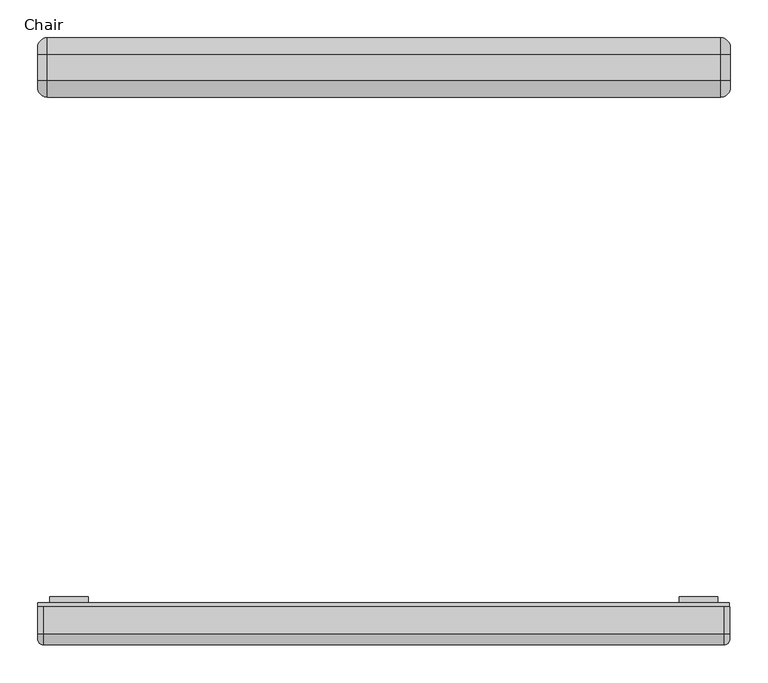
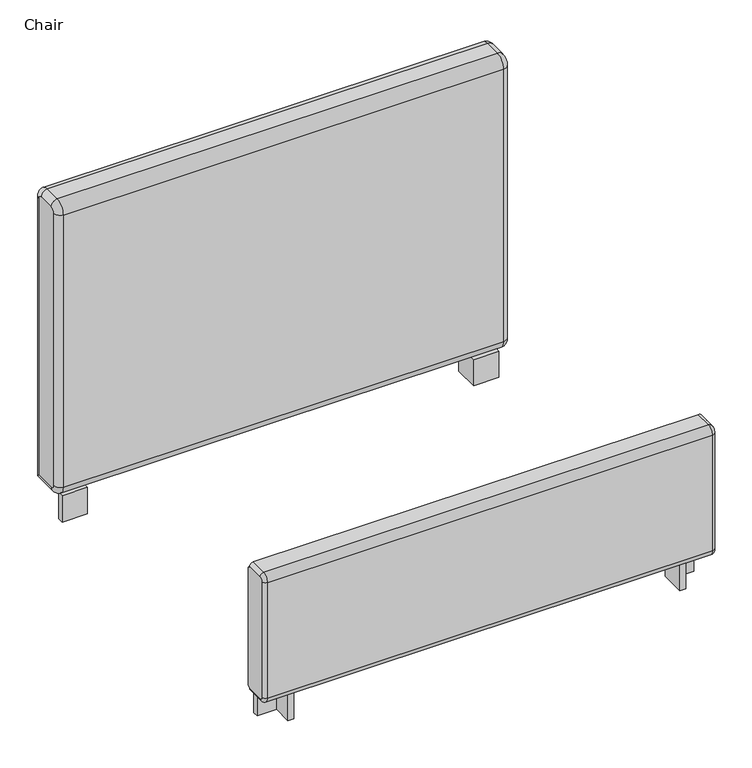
"""IFC4 building model written with IfcOpenShell, lengths in millimetres: furniture geometry, Steelcase Coalesse - Evaneau - Seating - Chair : Chair."""

from ifc_helpers import new_model, si_unit, point, frame, origin, origin_with_axes, place, context, project, spatial, polyline, circle_curve, ellipse_curve, trimmed, outline, extrude, source, transform, mapped, element, save
from ifc_brep_helpers import plane_surface, cylinder_surface, revolved_surface, advanced_brep


def chair_06b946c4(model_context):
    return source(origin(), model_context, "Body", "SolidModel", [
        advanced_brep(
        [(-1122.2082605, 271.7932961, 324.5099722), (-1122.2082605, 276.8732961, 319.4299722), (-1122.2082605, 276.8732961, 71.8912426), (-1122.2082605, 271.7932961, 66.8112426), (-1122.2082605, 271.7932961, 65.6357853), (-1122.2082605, 235.3471838, 65.6357853), (-1122.2082605, 229.0917265, 71.8912426), (-1122.2082605, 229.0917265, 319.4299722), (-1122.2082605, 235.3471838, 325.6854295), (-1122.2082605, 271.7932961, 325.6854295), (-206.5501978, 271.7932961, 66.8112426), (-206.5501978, 276.8732961, 71.8912426), (-206.5501978, 276.8732961, 319.4299722), (-206.5501978, 271.7932961, 324.5099722), (-206.5501978, 235.3471838, 324.5099722), (-206.5501978, 230.2671838, 319.4299722), (-206.5501978, 230.2671838, 71.8912426), (-206.5501978, 235.3471838, 66.8112426), (-205.6275834, 271.7932961, 66.8112426), (-205.6275834, 271.7932961, 65.6035308), (-213.2475834, 271.7932961, 57.9835308), (-1114.556006, 271.7932961, 57.9835308), (-205.6275834, 235.3471838, 66.8112426), (-205.6275834, 230.2671838, 71.8912426), (-205.6275834, 230.2671838, 319.4299722), (-205.6275834, 235.3471838, 324.5099722), (-205.6275834, 271.7932961, 324.5099722), (-205.6275834, 271.7932961, 325.717684), (-205.6275834, 235.3471838, 325.717684), (-205.6275834, 229.059472, 319.4299722), (-205.6275834, 229.059472, 71.8912426), (-205.6275834, 235.3471838, 65.6035308), (-213.2475834, 235.3471838, 57.9835308), (-1114.556006, 235.3471838, 57.9835308), (-213.2475834, 221.439472, 71.8912426), (-1114.556006, 221.439472, 71.8912426), (-213.2475834, 221.439472, 319.4299722), (-1114.556006, 221.439472, 319.4299722), (-213.2475834, 235.3471838, 333.337684), (-1114.556006, 235.3471838, 333.337684), (-1114.556006, 271.7932961, 333.337684), (-213.2475834, 271.7932961, 333.337684)],
        [
            (0, 1, circle_curve(frame((-1122.2082605, 271.7932961, 319.4299722), z_axis=(-1.0, 0.0, 0.0), x_axis=(0.0, -1.0, 0.0)), 5.08)),
            (1, 2),
            (2, 3, circle_curve(frame((-1122.2082605, 271.7932961, 71.8912426), z_axis=(-1.0, 0.0, 0.0), x_axis=(0.0, -1.0, 0.0)), 5.08)),
            (3, 4),
            (4, 5),
            (5, 6, circle_curve(frame((-1122.2082605, 235.3471838, 71.8912426), z_axis=(-1.0, 0.0, 0.0), x_axis=(0.0, 0.0, -1.0)), 6.2554573)),
            (6, 7),
            (7, 8, circle_curve(frame((-1122.2082605, 235.3471838, 319.4299722), z_axis=(-1.0, 0.0, 0.0), x_axis=(0.0, -1.0, 0.0)), 6.2554573)),
            (8, 9),
            (9, 0),
            (10, 11, circle_curve(frame((-206.5501978, 271.7932961, 71.8912426), z_axis=(1.0, 0.0, 0.0), x_axis=(0.0, -1.0, 0.0)), 5.08)),
            (11, 12),
            (12, 13, circle_curve(frame((-206.5501978, 271.7932961, 319.4299722), z_axis=(1.0, 0.0, 0.0), x_axis=(0.0, -1.0, 0.0)), 5.08)),
            (13, 14),
            (14, 15, circle_curve(frame((-206.5501978, 235.3471838, 319.4299722), z_axis=(1.0, 0.0, 0.0), x_axis=(0.0, -1.0, 0.0)), 5.08)),
            (15, 16),
            (16, 17, circle_curve(frame((-206.5501978, 235.3471838, 71.8912426), z_axis=(1.0, 0.0, 0.0), x_axis=(0.0, 0.0, -1.0)), 5.08)),
            (17, 10),
            (0, 13),
            (12, 1),
            (11, 2),
            (10, 3),
            (18, 19),
            (19, 20, circle_curve(frame((-213.2475834, 271.7932961, 65.6035308), z_axis=(0.0, 1.0, 0.0), x_axis=(1.0, 0.0, 0.0)), 7.62)),
            (20, 21),
            (21, 4, circle_curve(frame((-1114.556006, 271.7932961, 65.6357853), z_axis=(0.0, 1.0, 0.0), x_axis=(1.0, 0.0, 0.0)), 7.6522545)),
            (10, 18),
            (18, 22),
            (22, 23, circle_curve(frame((-205.6275834, 235.3471838, 71.8912426), z_axis=(-1.0, 0.0, 0.0), x_axis=(0.0, 0.0, -1.0)), 5.08)),
            (23, 24),
            (24, 25, circle_curve(frame((-205.6275834, 235.3471838, 319.4299722), z_axis=(-1.0, 0.0, 0.0), x_axis=(0.0, -1.0, 0.0)), 5.08)),
            (25, 26),
            (26, 27),
            (27, 28),
            (28, 29, circle_curve(frame((-205.6275834, 235.3471838, 319.4299722), z_axis=(1.0, 0.0, 0.0), x_axis=(0.0, -1.0, 0.0)), 6.2877117)),
            (29, 30),
            (30, 31, circle_curve(frame((-205.6275834, 235.3471838, 71.8912426), z_axis=(1.0, 0.0, 0.0), x_axis=(0.0, 0.0, -1.0)), 6.2877117)),
            (31, 19),
            (31, 32, circle_curve(frame((-213.2475834, 235.3471838, 65.6035308), z_axis=(0.0, 1.0, 0.0), x_axis=(1.0, 0.0, 0.0)), 7.62)),
            (32, 20),
            (32, 33),
            (33, 21),
            (33, 5, circle_curve(frame((-1114.556006, 235.3471838, 65.6357853), z_axis=(0.0, 1.0, 0.0), x_axis=(1.0, 0.0, 0.0)), 7.6522545)),
            (17, 22),
            (30, 34, circle_curve(frame((-213.2475834, 229.059472, 71.8912426), z_axis=(0.0, 0.0, -1.0), x_axis=(1.0, 0.0, 0.0)), 7.62)),
            (34, 32, circle_curve(frame((-213.2475834, 235.3471838, 71.8912426), z_axis=(1.0, 0.0, 0.0), x_axis=(0.0, 0.0, -1.0)), 13.9077117)),
            (34, 35),
            (35, 33, circle_curve(frame((-1114.556006, 235.3471838, 71.8912426), z_axis=(1.0, 0.0, 0.0), x_axis=(0.0, 0.0, -1.0)), 13.9077117)),
            (35, 6, circle_curve(frame((-1114.556006, 229.0917265, 71.8912426), z_axis=(0.0, 0.0, -1.0), x_axis=(1.0, 0.0, 0.0)), 7.6522545)),
            (16, 23),
            (29, 36, circle_curve(frame((-213.2475834, 229.059472, 319.4299722), z_axis=(0.0, 0.0, -1.0), x_axis=(1.0, 0.0, 0.0)), 7.62)),
            (36, 34),
            (36, 37),
            (37, 35),
            (37, 7, circle_curve(frame((-1114.556006, 229.0917265, 319.4299722), z_axis=(0.0, 0.0, -1.0), x_axis=(1.0, 0.0, 0.0)), 7.6522545)),
            (15, 24),
            (28, 38, circle_curve(frame((-213.2475834, 235.3471838, 325.717684), z_axis=(0.0, -1.0, 0.0), x_axis=(1.0, 0.0, 0.0)), 7.62)),
            (38, 36, circle_curve(frame((-213.2475834, 235.3471838, 319.4299722), z_axis=(1.0, 0.0, 0.0), x_axis=(0.0, -1.0, 0.0)), 13.9077117)),
            (38, 39),
            (39, 37, circle_curve(frame((-1114.556006, 235.3471838, 319.4299722), z_axis=(1.0, 0.0, 0.0), x_axis=(0.0, -1.0, 0.0)), 13.9077117)),
            (39, 8, circle_curve(frame((-1114.556006, 235.3471838, 325.6854295), z_axis=(0.0, -1.0, 0.0), x_axis=(1.0, 0.0, 0.0)), 7.6522545)),
            (14, 25),
            (26, 13),
            (9, 40, circle_curve(frame((-1114.556006, 271.7932961, 325.6854295), z_axis=(0.0, 1.0, 0.0), x_axis=(1.0, 0.0, 0.0)), 7.6522545)),
            (40, 41),
            (41, 27, circle_curve(frame((-213.2475834, 271.7932961, 325.717684), z_axis=(0.0, 1.0, 0.0), x_axis=(1.0, 0.0, 0.0)), 7.62)),
            (41, 38),
            (40, 39),
        ],
        [
            plane_surface(frame((-1122.2082605, 266.7132961, 319.4299722), z_axis=(-1.0, 0.0, 0.0), x_axis=(0.0, 0.0, 1.0))),
            plane_surface(frame((-206.5501978, 266.7132961, 319.4299722), z_axis=(1.0, 0.0, 0.0), x_axis=(0.0, 0.0, -1.0))),
            cylinder_surface(frame((-206.5501978, 271.7932961, 319.4299722), z_axis=(-1.0, 0.0, 0.0), x_axis=(0.0, -1.0, 0.0)), 5.08),
            plane_surface(frame((-1122.2082605, 276.8732961, 319.4299722), z_axis=(0.0, 1.0, 0.0), x_axis=(1.0, 0.0, 0.0))),
            cylinder_surface(frame((-206.5501978, 271.7932961, 71.8912426), z_axis=(-1.0, 0.0, 0.0), x_axis=(0.0, -1.0, 0.0)), 5.08),
            plane_surface(frame((-663.917922, 271.7932961, 66.8112426), z_axis=(0.0, 1.0, 0.0), x_axis=(-1.0, 0.0, 0.0))),
            plane_surface(frame((-205.6275834, 271.7932961, 66.8112426), z_axis=(1.0, 0.0, 0.0), x_axis=(0.0, -1.0, 0.0))),
            cylinder_surface(frame((-213.2475834, 271.7932961, 65.6035308), z_axis=(0.0, 1.0, 0.0), x_axis=(1.0, 0.0, 0.0)), 7.62),
            plane_surface(frame((-213.2475834, 271.7932961, 57.9835308), z_axis=(0.0, 0.0, -1.0), x_axis=(0.0, -1.0, 0.0))),
            cylinder_surface(frame((-1114.556006, 271.7932961, 65.6357853), z_axis=(0.0, 1.0, 0.0), x_axis=(1.0, 0.0, 0.0)), 7.6522545),
            plane_surface(frame((-1122.2082605, 271.7932961, 66.8112426), z_axis=(0.0, 0.0, 1.0), x_axis=(0.0, -1.0, 0.0))),
            revolved_surface(trimmed(ellipse_curve(frame((-213.2475834, 235.3471838, 65.6035308), z_axis=(0.0, 1.0, 0.0), x_axis=(1.0, 0.0, 0.0)), 7.62, 7.62), [point((-205.6275834, 235.3471838, 65.6035308))], [point((-213.2475834, 235.3471838, 57.9835308))], True, "CARTESIAN"), (-663.917922, 235.3471838, 71.8912426), (-1.0, 0.0, 0.0)),
            cylinder_surface(frame((-663.917922, 235.3471838, 71.8912426), z_axis=(-1.0, 0.0, 0.0), x_axis=(0.0, 0.0, -1.0)), 13.9077117),
            revolved_surface(trimmed(ellipse_curve(frame((-1114.556006, 235.3471838, 65.6357853), z_axis=(0.0, 1.0, 0.0), x_axis=(1.0, 0.0, 0.0)), 7.6522545, 7.6522545), [point((-1114.556006, 235.3471838, 57.9835308))], [point((-1122.2082605, 235.3471838, 65.6357853))], True, "CARTESIAN"), (-663.917922, 235.3471838, 71.8912426), (-1.0, 0.0, 0.0)),
            revolved_surface(polyline([(-206.55019779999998, 235.3471838, 66.8112426), (-205.6275834, 235.3471838, 66.8112426)]), (-663.917922, 235.3471838, 71.8912426), (-1.0, 0.0, 0.0)),
            cylinder_surface(frame((-213.2475834, 229.059472, 71.8912426), z_axis=(0.0, 0.0, -1.0), x_axis=(1.0, 0.0, 0.0)), 7.62),
            plane_surface(frame((-213.2475834, 221.439472, 71.8912426), z_axis=(0.0, -1.0, 0.0), x_axis=(0.0, 0.0, 1.0))),
            cylinder_surface(frame((-1114.556006, 229.0917265, 71.8912426), z_axis=(0.0, 0.0, -1.0), x_axis=(1.0, 0.0, 0.0)), 7.6522545),
            plane_surface(frame((-1122.2082605, 230.2671838, 71.8912426), z_axis=(0.0, 1.0, 0.0), x_axis=(0.0, 0.0, 1.0))),
            revolved_surface(trimmed(ellipse_curve(frame((-213.2475834, 229.059472, 319.4299722), z_axis=(0.0, 0.0, -1.0), x_axis=(1.0, 0.0, 0.0)), 7.62, 7.62), [point((-205.6275834, 229.059472, 319.4299722))], [point((-213.2475834, 221.439472, 319.4299722))], True, "CARTESIAN"), (-663.917922, 235.3471838, 319.4299722), (-1.0, 0.0, 0.0)),
            cylinder_surface(frame((-663.917922, 235.3471838, 319.4299722), z_axis=(-1.0, 0.0, 0.0), x_axis=(0.0, -1.0, 0.0)), 13.9077117),
            revolved_surface(trimmed(ellipse_curve(frame((-1114.556006, 229.0917265, 319.4299722), z_axis=(0.0, 0.0, -1.0), x_axis=(1.0, 0.0, 0.0)), 7.6522545, 7.6522545), [point((-1114.556006, 221.439472, 319.4299722))], [point((-1122.2082605, 229.0917265, 319.4299722))], True, "CARTESIAN"), (-663.917922, 235.3471838, 319.4299722), (-1.0, 0.0, 0.0)),
            revolved_surface(polyline([(-206.55019779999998, 230.2671838, 319.4299722), (-205.6275834, 230.2671838, 319.4299722)]), (-663.917922, 235.3471838, 319.4299722), (-1.0, 0.0, 0.0)),
            plane_surface(frame((-663.917922, 271.7932961, 324.5099722), z_axis=(0.0, 1.0, 0.0), x_axis=(-1.0, 0.0, 0.0))),
            cylinder_surface(frame((-213.2475834, 235.3471838, 325.717684), z_axis=(0.0, -1.0, 0.0), x_axis=(1.0, 0.0, 0.0)), 7.62),
            plane_surface(frame((-213.2475834, 235.3471838, 333.337684), z_axis=(0.0, 0.0, 1.0), x_axis=(0.0, 1.0, 0.0))),
            cylinder_surface(frame((-1114.556006, 235.3471838, 325.6854295), z_axis=(0.0, -1.0, 0.0), x_axis=(1.0, 0.0, 0.0)), 7.6522545),
            plane_surface(frame((-1122.2082605, 235.3471838, 324.5099722), z_axis=(0.0, 0.0, -1.0), x_axis=(0.0, 1.0, 0.0))),
        ],
        [
            (0, [[1, 2, 3, 4, 5, 6, 7, 8, 9, 10]]),
            (1, [[11, 12, 13, 14, 15, 16, 17, 18]]),
            (2, [[-1, 19, -13, 20]]),
            (3, [[-2, -20, -12, 21]]),
            (4, [[-3, -21, -11, 22]]),
            (5, [[23, 24, 25, 26, -4, -22, 27]]),
            (6, [[-23, 28, 29, 30, 31, 32, 33, 34, 35, 36, 37, 38]]),
            (7, [[-24, -38, 39, 40]]),
            (8, [[-25, -40, 41, 42]]),
            (9, [[-26, -42, 43, -5]]),
            (10, [[-28, -27, -18, 44]]),
            (11, [[-37, 45, 46, -39]]),
            (12, [[-41, -46, 47, 48]]),
            (13, [[-43, -48, 49, -6]]),
            (14, [[-29, -44, -17, 50]]),
            (15, [[-36, 51, 52, -45]]),
            (16, [[-47, -52, 53, 54]]),
            (17, [[-7, -49, -54, 55]]),
            (18, [[-30, -50, -16, 56]]),
            (19, [[-35, 57, 58, -51]]),
            (20, [[-53, -58, 59, 60]]),
            (21, [[-8, -55, -60, 61]]),
            (22, [[-31, -56, -15, 62]]),
            (23, [[-33, 63, -19, -10, 64, 65, 66]]),
            (24, [[-34, -66, 67, -57]]),
            (25, [[-59, -67, -65, 68]]),
            (26, [[-9, -61, -68, -64]]),
            (27, [[-32, -62, -14, -63]]),
        ],
    ),
        advanced_brep(
        [(-217.8060999, 1025.2126474, 665.1886079), (-217.8060999, 1003.6759484, 686.7253069), (-205.1060999, 1003.6759484, 674.0253069), (-205.1060999, 1012.5126474, 665.1886079), (-1109.5082605, 1025.2126474, 665.1886079), (-1109.5082605, 1003.6759484, 686.7253069), (-1122.2082605, 1012.5126474, 665.1886079), (-1122.2082605, 1003.6759484, 674.0253069), (-205.1060999, 1012.5126474, 73.3459621), (-217.8060999, 1025.2126474, 60.6459621), (-1109.5082605, 1025.2126474, 60.6459621), (-1122.2082605, 1012.5126474, 73.3459621), (-205.1060999, 968.1159193, 73.3459621), (-217.8060999, 968.1159193, 60.6459621), (-1109.5082605, 968.1159193, 60.6459621), (-1122.2082605, 968.1159193, 73.3459621), (-205.1060999, 959.2792204, 82.1826611), (-217.8060999, 946.5792204, 82.1826611), (-1109.5082605, 946.5792204, 82.1826611), (-1122.2082605, 959.2792204, 82.1826611), (-205.1060999, 959.2792204, 665.1886079), (-217.8060999, 946.5792204, 665.1886079), (-1109.5082605, 946.5792204, 665.1886079), (-1122.2082605, 959.2792204, 665.1886079), (-205.1060999, 968.1159193, 674.0253069), (-217.8060999, 968.1159193, 686.7253069), (-1109.5082605, 968.1159193, 686.7253069), (-1122.2082605, 968.1159193, 674.0253069)],
        [
            (0, 1, circle_curve(frame((-217.8060999, 1003.6759484, 665.1886079), z_axis=(1.0, 0.0, 0.0), x_axis=(0.0, 0.0, 1.0)), 21.536699)),
            (1, 2, circle_curve(frame((-217.8060999, 1003.6759484, 674.0253069), z_axis=(0.0, 1.0, 0.0), x_axis=(1.0, 0.0, 0.0)), 12.7)),
            (2, 3, circle_curve(frame((-205.1060999, 1003.6759484, 665.1886079), z_axis=(-1.0, 0.0, 0.0), x_axis=(0.0, 0.0, 1.0)), 8.836699)),
            (3, 0, circle_curve(frame((-217.8060999, 1012.5126474, 665.1886079), z_axis=(0.0, 0.0, 1.0), x_axis=(1.0, 0.0, 0.0)), 12.7)),
            (0, 4),
            (4, 5, circle_curve(frame((-1109.5082605, 1003.6759484, 665.1886079), z_axis=(1.0, 0.0, 0.0), x_axis=(0.0, 0.0, 1.0)), 21.536699)),
            (5, 1),
            (4, 6, circle_curve(frame((-1109.5082605, 1012.5126474, 665.1886079), z_axis=(0.0, 0.0, 1.0), x_axis=(1.0, 0.0, 0.0)), 12.7)),
            (6, 7, circle_curve(frame((-1122.2082605, 1003.6759484, 665.1886079), z_axis=(1.0, 0.0, 0.0), x_axis=(0.0, 0.0, 1.0)), 8.836699)),
            (7, 5, circle_curve(frame((-1109.5082605, 1003.6759484, 674.0253069), z_axis=(0.0, 1.0, 0.0), x_axis=(1.0, 0.0, 0.0)), 12.7)),
            (3, 8),
            (8, 9, ellipse_curve(frame((-217.8060999, 1012.5126474, 73.3459621), z_axis=(0.0, 0.707106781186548, 0.7071067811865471), x_axis=(0.0, -0.7071067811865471, 0.7071067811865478)), 17.9605122, 12.7)),
            (9, 0),
            (9, 10),
            (10, 4),
            (10, 11, ellipse_curve(frame((-1109.5082605, 1012.5126474, 73.3459621), z_axis=(0.0, 0.707106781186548, 0.7071067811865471), x_axis=(0.0, -0.7071067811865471, 0.7071067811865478)), 17.9605122, 12.7)),
            (11, 6),
            (8, 12),
            (12, 13, circle_curve(frame((-217.8060999, 968.1159193, 73.3459621), z_axis=(0.0, 1.0, 0.0), x_axis=(1.0, 0.0, 0.0)), 12.7)),
            (13, 9),
            (13, 14),
            (14, 10),
            (14, 15, circle_curve(frame((-1109.5082605, 968.1159193, 73.3459621), z_axis=(0.0, 1.0, 0.0), x_axis=(1.0, 0.0, 0.0)), 12.7)),
            (15, 11),
            (12, 16, circle_curve(frame((-205.1060999, 968.1159193, 82.1826611), z_axis=(-1.0, 0.0, 0.0), x_axis=(0.0, 0.0, -1.0)), 8.836699)),
            (16, 17, circle_curve(frame((-217.8060999, 959.2792204, 82.1826611), z_axis=(0.0, 0.0, -1.0), x_axis=(1.0, 0.0, 0.0)), 12.7)),
            (17, 13, circle_curve(frame((-217.8060999, 968.1159193, 82.1826611), z_axis=(1.0, 0.0, 0.0), x_axis=(0.0, 0.0, -1.0)), 21.536699)),
            (17, 18),
            (18, 14, circle_curve(frame((-1109.5082605, 968.1159193, 82.1826611), z_axis=(1.0, 0.0, 0.0), x_axis=(0.0, 0.0, -1.0)), 21.536699)),
            (18, 19, circle_curve(frame((-1109.5082605, 959.2792204, 82.1826611), z_axis=(0.0, 0.0, -1.0), x_axis=(1.0, 0.0, 0.0)), 12.7)),
            (19, 15, circle_curve(frame((-1122.2082605, 968.1159193, 82.1826611), z_axis=(1.0, 0.0, 0.0), x_axis=(0.0, 0.0, -1.0)), 8.836699)),
            (16, 20),
            (20, 21, circle_curve(frame((-217.8060999, 959.2792204, 665.1886079), z_axis=(0.0, 0.0, -1.0), x_axis=(1.0, 0.0, 0.0)), 12.7)),
            (21, 17),
            (21, 22),
            (22, 18),
            (22, 23, circle_curve(frame((-1109.5082605, 959.2792204, 665.1886079), z_axis=(0.0, 0.0, -1.0), x_axis=(1.0, 0.0, 0.0)), 12.7)),
            (23, 19),
            (20, 24, circle_curve(frame((-205.1060999, 968.1159193, 665.1886079), z_axis=(-1.0, 0.0, 0.0), x_axis=(0.0, -1.0, 0.0)), 8.836699)),
            (24, 25, circle_curve(frame((-217.8060999, 968.1159193, 674.0253069), z_axis=(0.0, -1.0, 0.0), x_axis=(1.0, 0.0, 0.0)), 12.7)),
            (25, 21, circle_curve(frame((-217.8060999, 968.1159193, 665.1886079), z_axis=(1.0, 0.0, 0.0), x_axis=(0.0, -1.0, 0.0)), 21.536699)),
            (25, 26),
            (26, 22, circle_curve(frame((-1109.5082605, 968.1159193, 665.1886079), z_axis=(1.0, 0.0, 0.0), x_axis=(0.0, -1.0, 0.0)), 21.536699)),
            (26, 27, circle_curve(frame((-1109.5082605, 968.1159193, 674.0253069), z_axis=(0.0, -1.0, 0.0), x_axis=(1.0, 0.0, 0.0)), 12.7)),
            (27, 23, circle_curve(frame((-1122.2082605, 968.1159193, 665.1886079), z_axis=(1.0, 0.0, 0.0), x_axis=(0.0, -1.0, 0.0)), 8.836699)),
            (27, 7),
            (2, 24),
            (1, 25),
            (5, 26),
        ],
        [
            revolved_surface(trimmed(ellipse_curve(frame((-217.8060999, 1003.6759484, 674.0253069), z_axis=(0.0, -1.0, 0.0), x_axis=(1.0, 0.0, 0.0)), 12.7, 12.7), [point((-205.1060999, 1003.6759484, 674.0253069))], [point((-217.8060999, 1003.6759484, 686.7253069))], True, "CARTESIAN"), (-663.917922, 1003.6759484, 665.1886079), (-1.0, 0.0, 0.0)),
            cylinder_surface(frame((-663.917922, 1003.6759484, 665.1886079), z_axis=(-1.0, 0.0, 0.0), x_axis=(0.0, 0.0, 1.0)), 21.536699),
            revolved_surface(trimmed(ellipse_curve(frame((-1109.5082605, 1003.6759484, 674.0253069), z_axis=(0.0, -1.0, 0.0), x_axis=(1.0, 0.0, 0.0)), 12.7, 12.7), [point((-1109.5082605, 1003.6759484, 686.7253069))], [point((-1122.2082605, 1003.6759484, 674.0253069))], True, "CARTESIAN"), (-663.917922, 1003.6759484, 665.1886079), (-1.0, 0.0, 0.0)),
            cylinder_surface(frame((-217.8060999, 1012.5126474, 665.1886079), z_axis=(0.0, 0.0, 1.0), x_axis=(1.0, 0.0, 0.0)), 12.7),
            plane_surface(frame((-217.8060999, 1025.2126474, 665.1886079), z_axis=(0.0, 1.0, 0.0), x_axis=(0.0, 0.0, -1.0))),
            cylinder_surface(frame((-1109.5082605, 1012.5126474, 665.1886079), z_axis=(0.0, 0.0, 1.0), x_axis=(1.0, 0.0, 0.0)), 12.7),
            cylinder_surface(frame((-217.8060999, 1008.7559484, 73.3459621), z_axis=(0.0, 1.0, 0.0), x_axis=(1.0, 0.0, 0.0)), 12.7),
            plane_surface(frame((-217.8060999, 1025.2126474, 60.6459621), z_axis=(0.0, 0.0, -1.0), x_axis=(0.0, -1.0, 0.0))),
            cylinder_surface(frame((-1109.5082605, 1008.7559484, 73.3459621), z_axis=(0.0, 1.0, 0.0), x_axis=(1.0, 0.0, 0.0)), 12.7),
            revolved_surface(trimmed(ellipse_curve(frame((-217.8060999, 968.1159193, 73.3459621), z_axis=(0.0, 1.0, 0.0), x_axis=(1.0, 0.0, 0.0)), 12.7, 12.7), [point((-205.1060999, 968.1159193, 73.3459621))], [point((-217.8060999, 968.1159193, 60.6459621))], True, "CARTESIAN"), (-663.917922, 968.1159193, 82.1826611), (-1.0, 0.0, 0.0)),
            cylinder_surface(frame((-663.917922, 968.1159193, 82.1826611), z_axis=(-1.0, 0.0, 0.0), x_axis=(0.0, 0.0, -1.0)), 21.536699),
            revolved_surface(trimmed(ellipse_curve(frame((-1109.5082605, 968.1159193, 73.3459621), z_axis=(0.0, 1.0, 0.0), x_axis=(1.0, 0.0, 0.0)), 12.7, 12.7), [point((-1109.5082605, 968.1159193, 60.6459621))], [point((-1122.2082605, 968.1159193, 73.3459621))], True, "CARTESIAN"), (-663.917922, 968.1159193, 82.1826611), (-1.0, 0.0, 0.0)),
            cylinder_surface(frame((-217.8060999, 959.2792204, 82.1826611), z_axis=(0.0, 0.0, -1.0), x_axis=(1.0, 0.0, 0.0)), 12.7),
            plane_surface(frame((-217.8060999, 946.5792204, 82.1826611), z_axis=(0.0, -1.0, 0.0), x_axis=(0.0, 0.0, 1.0))),
            cylinder_surface(frame((-1109.5082605, 959.2792204, 82.1826611), z_axis=(0.0, 0.0, -1.0), x_axis=(1.0, 0.0, 0.0)), 12.7),
            revolved_surface(trimmed(ellipse_curve(frame((-217.8060999, 959.2792204, 665.1886079), z_axis=(0.0, 0.0, -1.0), x_axis=(1.0, 0.0, 0.0)), 12.7, 12.7), [point((-205.1060999, 959.2792204, 665.1886079))], [point((-217.8060999, 946.5792204, 665.1886079))], True, "CARTESIAN"), (-663.917922, 968.1159193, 665.1886079), (-1.0, 0.0, 0.0)),
            cylinder_surface(frame((-663.917922, 968.1159193, 665.1886079), z_axis=(-1.0, 0.0, 0.0), x_axis=(0.0, -1.0, 0.0)), 21.536699),
            revolved_surface(trimmed(ellipse_curve(frame((-1109.5082605, 959.2792204, 665.1886079), z_axis=(0.0, 0.0, -1.0), x_axis=(1.0, 0.0, 0.0)), 12.7, 12.7), [point((-1109.5082605, 946.5792204, 665.1886079))], [point((-1122.2082605, 959.2792204, 665.1886079))], True, "CARTESIAN"), (-663.917922, 968.1159193, 665.1886079), (-1.0, 0.0, 0.0)),
            plane_surface(frame((-1122.2082605, 968.1159193, 674.0253069), z_axis=(-1.0, 0.0, 0.0), x_axis=(0.0, 1.0, 0.0))),
            plane_surface(frame((-205.1060999, 968.1159193, 670.2686079), z_axis=(1.0, 0.0, 0.0), x_axis=(0.0, 1.0, 0.0))),
            cylinder_surface(frame((-217.8060999, 968.1159193, 674.0253069), z_axis=(0.0, -1.0, 0.0), x_axis=(1.0, 0.0, 0.0)), 12.7),
            plane_surface(frame((-217.8060999, 968.1159193, 686.7253069), z_axis=(0.0, 0.0, 1.0), x_axis=(0.0, 1.0, 0.0))),
            cylinder_surface(frame((-1109.5082605, 968.1159193, 674.0253069), z_axis=(0.0, -1.0, 0.0), x_axis=(1.0, 0.0, 0.0)), 12.7),
        ],
        [
            (0, [[1, 2, 3, 4]]),
            (1, [[-1, 5, 6, 7]]),
            (2, [[-6, 8, 9, 10]]),
            (3, [[-4, 11, 12, 13]]),
            (4, [[-5, -13, 14, 15]]),
            (5, [[-8, -15, 16, 17]]),
            (6, [[-12, 18, 19, 20]]),
            (7, [[-14, -20, 21, 22]]),
            (8, [[-16, -22, 23, 24]]),
            (9, [[-19, 25, 26, 27]]),
            (10, [[-21, -27, 28, 29]]),
            (11, [[-23, -29, 30, 31]]),
            (12, [[-26, 32, 33, 34]]),
            (13, [[-28, -34, 35, 36]]),
            (14, [[-30, -36, 37, 38]]),
            (15, [[-33, 39, 40, 41]]),
            (16, [[-35, -41, 42, 43]]),
            (17, [[-37, -43, 44, 45]]),
            (18, [[-9, -17, -24, -31, -38, -45, 46]]),
            (19, [[-3, 47, -39, -32, -25, -18, -11]]),
            (20, [[-2, 48, -40, -47]]),
            (21, [[-7, 49, -42, -48]]),
            (22, [[-10, -46, -44, -49]]),
        ],
    ),
        extrude(outline(polyline([(-1055.1478189, 957.266068), (-1106.2888834, 957.266068), (-1106.2888834, 969.0678913), (-1066.9494242, 969.0678913), (-1066.9494242, 1008.7559484), (-1055.1478189, 1008.7559484), (-1055.1478189, 957.266068)])), origin_with_axes(), (0.0, 0.0, 1.0), 56.333748),
        extrude(outline(polyline([(-1055.1478189, 284.8074775), (-1055.1478189, 233.3175972), (-1066.9494242, 233.3175972), (-1066.9494242, 273.0056543), (-1106.2888834, 273.0056543), (-1106.2888834, 284.8074775), (-1055.1478189, 284.8074775)])), origin_with_axes(), (0.0, 0.0, 1.0), 56.333748),
        extrude(outline(polyline([(-272.688025, 957.266068), (-272.688025, 1008.7559484), (-260.8864198, 1008.7559484), (-260.8864198, 969.0678913), (-221.5469606, 969.0678913), (-221.5469606, 957.266068), (-272.688025, 957.266068)])), origin_with_axes(), (0.0, 0.0, 1.0), 56.333748),
        extrude(outline(polyline([(-272.688025, 284.8074775), (-221.5469606, 284.8074775), (-221.5469606, 273.0056543), (-260.8864198, 273.0056543), (-260.8864198, 233.3175972), (-272.688025, 233.3175972), (-272.688025, 284.8074775)])), origin_with_axes(), (0.0, 0.0, 1.0), 56.333748),
    ])


if __name__ == "__main__":
    model = new_model("IFC4")
    model_context = context("Model", 3, world=origin())
    ifc_project = project(units=[si_unit("LENGTHUNIT", "METRE", prefix="MILLI")], contexts=[model_context])
    site = spatial("IfcSite", under=ifc_project)
    building = spatial("IfcBuilding", under=site)
    placement = place(None, origin())
    chair_shape = chair_06b946c4(model_context)
    element("IfcFurniture", 1, ObjectType="Steelcase Coalesse - Evaneau - Seating - Chair : Chair", at=placement, inside=building, context=model_context, shape_type="MappedRepresentation", body=[
        mapped(chair_shape, transform((0.0, 0.0, 0.0), x_axis=(1.0, 0.0, 0.0), y_axis=(0.0, 1.0, 0.0), z_axis=(0.0, 0.0, 1.0))),
    ])
    save(model, "model.ifc")
